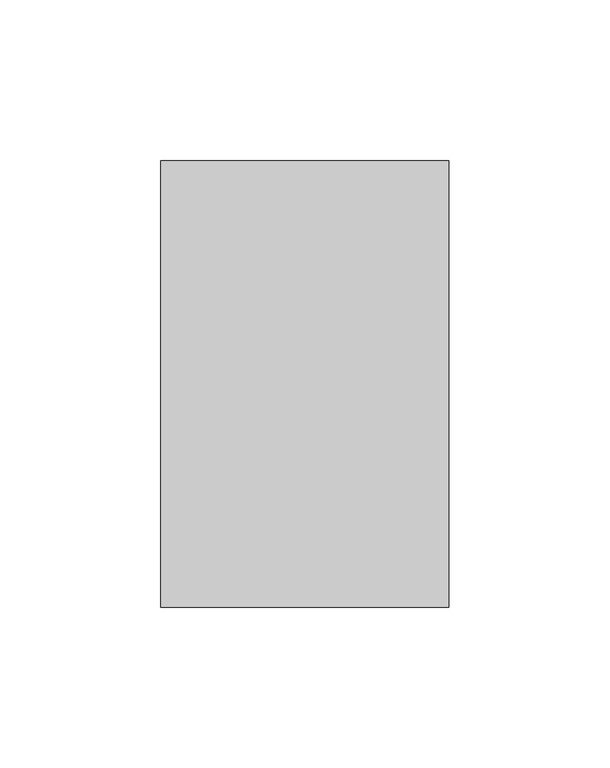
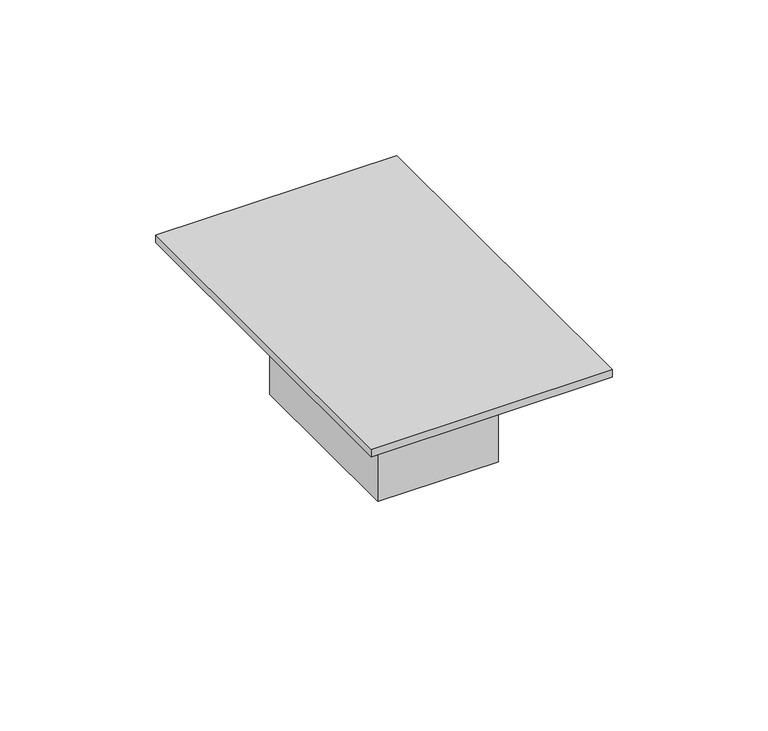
"""IFC4 building model written with IfcOpenShell, lengths in millimetres: switching device geometry, Wall Photocell : Wall Photocell."""

from ifc_helpers import new_model, si_unit, frame, origin, origin_with_axes, place, context, project, spatial, polyline, outline, extrude, source, transform, mapped, element, save


def switching_device_71a34b31(model_context):
    return source(origin(), model_context, "Body", "SweptSolid", [
        extrude(outline(polyline([(44.7476563, 0.0), (44.7476563, -138.7078125), (-44.7476562, -138.7078125), (-44.7476562, 0.0), (44.7476563, 0.0)])), origin_with_axes(), (0.0, 0.0, 1.0), 2.9021484),
        extrude(outline(polyline([(22.3738281, -34.6769531), (22.3738281, -104.0308594), (-22.3738281, -104.0308594), (-22.3738281, -34.6769531), (22.3738281, -34.6769531)])), frame((0.0, 0.0, -46.434375), z_axis=(0.0, 0.0, 1.0), x_axis=(1.0, 0.0, 0.0)), (0.0, 0.0, 1.0), 46.434375),
    ])


if __name__ == "__main__":
    model = new_model("IFC4")
    model_context = context("Model", 3, world=origin())
    ifc_project = project(units=[si_unit("LENGTHUNIT", "METRE", prefix="MILLI")], contexts=[model_context])
    site = spatial("IfcSite", under=ifc_project)
    building = spatial("IfcBuilding", under=site)
    placement = place(None, origin())
    switching_device_shape = switching_device_71a34b31(model_context)
    element("IfcSwitchingDevice", 1, ObjectType="Wall Photocell : Wall Photocell", at=placement, inside=building, context=model_context, shape_type="MappedRepresentation", body=[
        mapped(switching_device_shape, transform((0.0, 0.0, 0.0), x_axis=(1.0, 0.0, 0.0), y_axis=(0.0, 1.0, 0.0), z_axis=(0.0, 0.0, 1.0))),
    ])
    save(model, "model.ifc")
